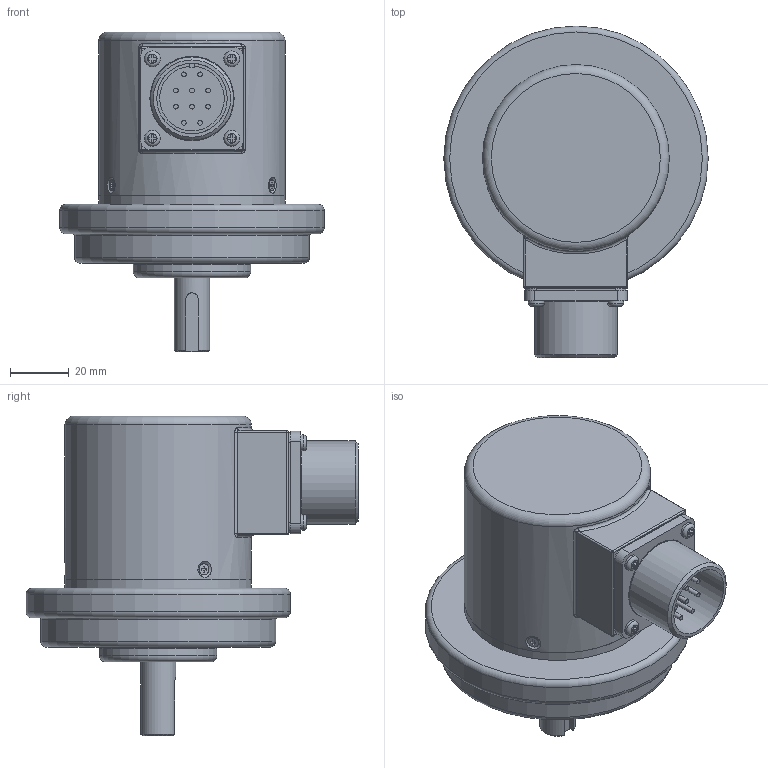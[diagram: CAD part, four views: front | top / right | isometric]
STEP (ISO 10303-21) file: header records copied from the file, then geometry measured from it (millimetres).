
FILE_DESCRIPTION(('FreeCAD Model'),'2;1');
FILE_NAME('Open CASCADE Shape Model','2026-08-04T10:43:54',(''),(''), 'Open CASCADE STEP processor 7.8','FreeCAD','Unknown');
FILE_SCHEMA(('AUTOMOTIVE_DESIGN { 1 0 10303 214 1 1 1 1 }'));
Length unit declared in the file: millimetre
Products named in the file (11): Assembly; Black Lid Side 10 Pin Connector; 10 Pin MS Gasket; 10 Pin Male MS Connector; Connector Screw; 725 Lid Screw; 745 Resolver Body; 740 Series Bearing; 745 12mm Shaft with Keyway; Disc Hub; Disc Hub Grub Screw
Assembly tree (17 placements, depth 2):
  Assembly
    Black Lid Side 10 Pin Connector
    10 Pin MS Gasket
    10 Pin Male MS Connector
    Connector Screw  x4
    725 Lid Screw  x3
    745 Resolver Body
    740 Series Bearing  x2
    745 12mm Shaft with Keyway
    Disc Hub
    Disc Hub Grub Screw  x2
Bounding box: 89.97 x 112.98 x 108.81 mm (x, y, z)
Volume: 215396.5 mm3; surface area: 74997.2 mm2
Topology: 17 solids, 17 shells, 989 faces, 2580 edges, 1671 vertices
Faces by surface type: bspline 541, plane 207, cylinder 147, torus 48, cone 40, sphere 4, revolution 2
Full cylindrical faces by diameter (mm): 1.6 x10, 1.85 x15, 2.1 x3, 2.35 x2, 2.5 x7, 2.7 x4, 2.85 x4, 3 x3, 3.2 x4, 3.3 x2, 3.5 x4, 3.8 x3, 5 x3, 5.4 x4, 7.87 x1, 9.525 x2, 12 x5, 15 x1, 16.45 x1, 16.5 x4, 22 x1, 23.8 x4, 24 x1, 25 x2, 26 x1, 26.6 x1, 28 x4, 28.3 x1, 39.97 x1, 54.86 x1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
Entity records: 83514 total; most frequent: CARTESIAN_POINT 66497, ORIENTED_EDGE 4544, EDGE_CURVE 2272, B_SPLINE_CURVE_WITH_KNOTS 1660, DIRECTION 1574, VERTEX_POINT 1488, FACE_BOUND 960, EDGE_LOOP 960
